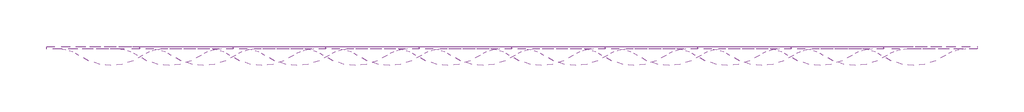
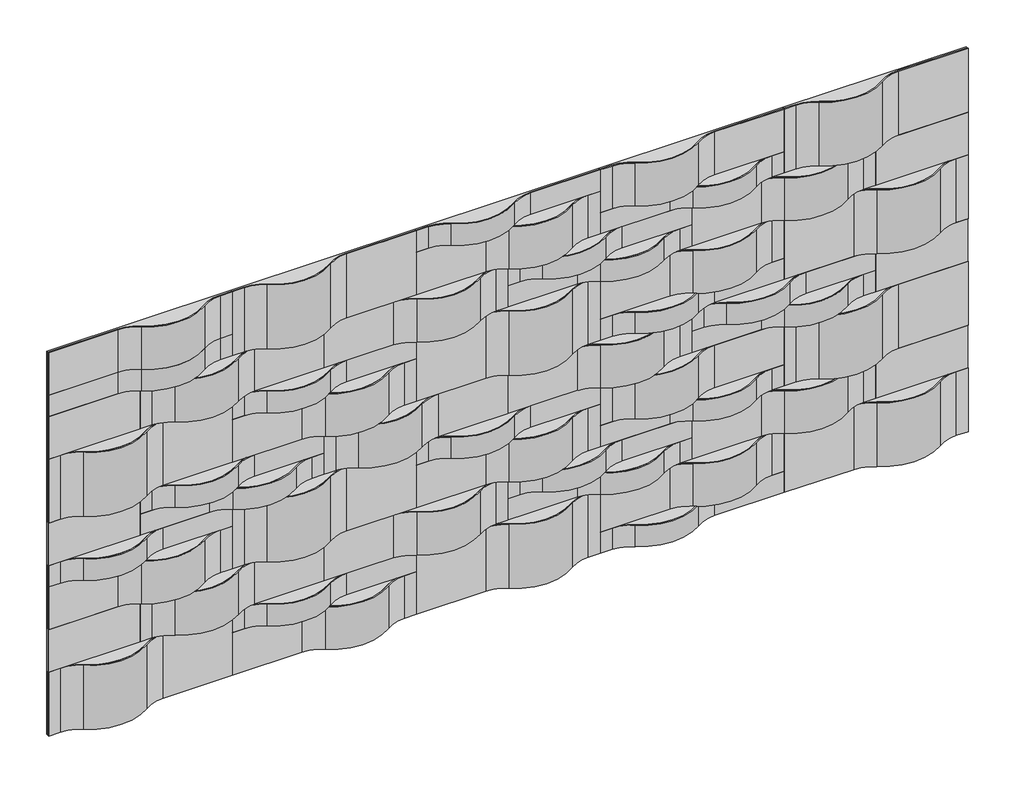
# One storey: 52 proxies.
"""IFC4 building model written with IfcOpenShell, lengths in millimetres."""

import ifcopenshell
import ifcopenshell.guid

model = None  # the IFC model being written
_history = None  # IfcOwnerHistory: only IFC2X3 demands one
_inside = {}  # id of a spatial element -> (the spatial element, [elements in it])
_under = {}  # id of a project, library or spatial element -> (it, [spatial elements below it])
_declared = {}  # id of a project -> (the project, [libraries it declares])
_typed = {}  # id of a type object -> (the type object, [elements of that type])
_made_of = {}  # id of a material, layer set ... -> (it, [elements and type objects made of it])


def new_model(schema):
    """Start an empty IFC model of exactly this schema.

    Asked for "IFC4X3", IfcOpenShell would pick the latest addendum, in which some entities
    have other attributes; the version numbers below select the first issue.
    IFC2X3 requires an IfcOwnerHistory on every rooted entity: one is made here for all.
    """
    global model, _history
    if schema == "IFC4X3":
        model = ifcopenshell.file(schema_version=(4, 3, 0, 0))
    else:
        model = ifcopenshell.file(schema=schema)
    _inside.clear()
    _under.clear()
    _declared.clear()
    _typed.clear()
    _made_of.clear()
    _history = None
    if model.schema == "IFC2X3":
        org = make("IfcOrganization", Name="unknown")
        user = make(
            "IfcPersonAndOrganization",
            ThePerson=make("IfcPerson", FamilyName="unknown"),
            TheOrganization=org,
        )
        app = make(
            "IfcApplication",
            ApplicationDeveloper=org,
            Version="unknown",
            ApplicationFullName="unknown",
            ApplicationIdentifier="unknown",
        )
        _history = make(
            "IfcOwnerHistory",
            OwningUser=user,
            OwningApplication=app,
            ChangeAction="ADDED",
            CreationDate=0,
        )
    return model


def make(cls, **values):
    """One entity of the class cls with the attributes given. An attribute that is None is left unset."""
    return model.create_entity(
        cls, **{name: value for name, value in values.items() if value is not None}
    )


def rooted(cls, **values):
    """An entity with a GlobalId (a new one), such as an element, a storey or a relation."""
    return make(cls, GlobalId=ifcopenshell.guid.new(), OwnerHistory=_history, **values)


def si_unit(unit_type, name, prefix=None):
    """IfcSIUnit, for example si_unit("LENGTHUNIT", "METRE", prefix="MILLI")."""
    return make("IfcSIUnit", UnitType=unit_type, Prefix=prefix, Name=name)


def assignment(units):
    """IfcUnitAssignment: the units of a project."""
    return None if units is None else make("IfcUnitAssignment", Units=units)


def point(xyz):
    """IfcCartesianPoint."""
    return None if xyz is None else make("IfcCartesianPoint", Coordinates=xyz)


def direction(xyz):
    """IfcDirection."""
    return None if xyz is None else make("IfcDirection", DirectionRatios=xyz)


def frame(location, z_axis=None, x_axis=None):
    """IfcAxis2Placement3D, a coordinate frame: its origin and axes. An axis left out is left unset."""
    return make(
        "IfcAxis2Placement3D",
        Location=point(location),
        Axis=direction(z_axis),
        RefDirection=direction(x_axis),
    )


def frame_2d(location, x_axis=None):
    """IfcAxis2Placement2D, a coordinate frame in the plane: its origin and x axis."""
    return make(
        "IfcAxis2Placement2D", Location=point(location), RefDirection=direction(x_axis)
    )


def origin():
    """The frame at (0, 0, 0) with its axes left unset."""
    return frame((0.0, 0.0, 0.0))


def origin_with_axes():
    """The frame at (0, 0, 0) with the z axis (0, 0, 1) and the x axis (1, 0, 0) written out."""
    return frame((0.0, 0.0, 0.0), z_axis=(0.0, 0.0, 1.0), x_axis=(1.0, 0.0, 0.0))


def place(relative_to, where):
    """IfcLocalPlacement: puts the frame where relative to a parent placement (None: the world)."""
    return make(
        "IfcLocalPlacement", PlacementRelTo=relative_to, RelativePlacement=where
    )


def context(
    kind, dimensions, precision=None, world=None, true_north=None, identifier=None
):
    """IfcGeometricRepresentationContext, for example the 3D "Model" context."""
    return make(
        "IfcGeometricRepresentationContext",
        ContextIdentifier=identifier,
        ContextType=kind,
        CoordinateSpaceDimension=dimensions,
        Precision=precision,
        WorldCoordinateSystem=world,
        TrueNorth=true_north,
    )


def project(units=None, contexts=None):
    """IfcProject with its units and contexts."""
    return rooted(
        "IfcProject",
        Name="project",
        RepresentationContexts=contexts,
        UnitsInContext=assignment(units),
    )


def spatial(cls, under=None, at=None, **own):
    """A site, building, storey or space (cls), placed at a placement, below another one or the project."""
    s = rooted(cls, ObjectPlacement=at, **own)
    if under is not None:
        _under.setdefault(under.id(), (under, []))[1].append(s)
    return s


def polyline(points):
    """IfcPolyline through the points."""
    return make("IfcPolyline", Points=[point(p) for p in points])


def circle_curve(where, radius):
    """IfcCircle in the frame where."""
    return make("IfcCircle", Position=where, Radius=radius)


def trimmed(basis, trim1, trim2, sense, master):
    """IfcTrimmedCurve: the piece of a basis curve between two trims."""
    return make(
        "IfcTrimmedCurve",
        BasisCurve=basis,
        Trim1=trim1,
        Trim2=trim2,
        SenseAgreement=sense,
        MasterRepresentation=master,
    )


def segment(curve, same_sense, transition):
    """IfcCompositeCurveSegment."""
    return make(
        "IfcCompositeCurveSegment",
        Transition=transition,
        SameSense=same_sense,
        ParentCurve=curve,
    )


def composite_curve(segments, self_intersect=None):
    """IfcCompositeCurve: segments joined end to end."""
    return make("IfcCompositeCurve", Segments=segments, SelfIntersect=self_intersect)


def outline(outer, holes=None, kind="AREA"):
    """IfcArbitraryClosedProfileDef: a profile drawn as a closed curve; with holes, ...WithVoids."""
    if holes is None:
        return make("IfcArbitraryClosedProfileDef", ProfileType=kind, OuterCurve=outer)
    return make(
        "IfcArbitraryProfileDefWithVoids",
        ProfileType=kind,
        OuterCurve=outer,
        InnerCurves=holes,
    )


def extrude(swept, where, along, depth):
    """IfcExtrudedAreaSolid: the profile swept, set in the frame where, extruded along a direction by depth."""
    return make(
        "IfcExtrudedAreaSolid",
        SweptArea=swept,
        Position=where,
        ExtrudedDirection=direction(along),
        Depth=depth,
    )


def shape(context_of_items, identifier, shape_type, items):
    """IfcShapeRepresentation: the items that make up one representation, for example the "Body"."""
    return make(
        "IfcShapeRepresentation",
        ContextOfItems=context_of_items,
        RepresentationIdentifier=identifier,
        RepresentationType=shape_type,
        Items=items,
    )


def source(mapping_origin, context_of_items, identifier, shape_type, items):
    """IfcRepresentationMap: a shape defined once, which mapped items show again and again."""
    return make(
        "IfcRepresentationMap",
        MappingOrigin=mapping_origin,
        MappedRepresentation=shape(context_of_items, identifier, shape_type, items),
    )


def transform(
    local_origin,
    x_axis=None,
    y_axis=None,
    z_axis=None,
    scale=None,
    scale2=None,
    scale3=None,
    uniform=True,
):
    """IfcCartesianTransformationOperator3D, or its non-uniform kind. x_axis, y_axis, z_axis: its Axis1, 2, 3."""
    if uniform:
        return make(
            "IfcCartesianTransformationOperator3D",
            Axis1=direction(x_axis),
            Axis2=direction(y_axis),
            LocalOrigin=point(local_origin),
            Scale=scale,
            Axis3=direction(z_axis),
        )
    return make(
        "IfcCartesianTransformationOperator3DnonUniform",
        Axis1=direction(x_axis),
        Axis2=direction(y_axis),
        LocalOrigin=point(local_origin),
        Scale=scale,
        Axis3=direction(z_axis),
        Scale2=scale2,
        Scale3=scale3,
    )


def mapped(mapping_source, mapping_target):
    """IfcMappedItem: shows the shape of a source again, moved by a transform."""
    return make(
        "IfcMappedItem", MappingSource=mapping_source, MappingTarget=mapping_target
    )


def made_of(thing, what):
    """Note that an element or type object is made of a material, layer set ...; save() writes the relation."""
    if what is not None:
        _made_of.setdefault(what.id(), (what, []))[1].append(thing)
    return thing


def element(
    cls,
    number,
    at=None,
    inside=None,
    cuts=None,
    type_object=None,
    material=None,
    context=None,
    identifier="Body",
    shape_type=None,
    held_by="IfcProductDefinitionShape",
    body=None,
    shapes=None,
    **own,
):
    """One element of the class cls, such as IfcWall. Its Tag is "e" and its number.

    at: its placement. inside: the storey or other place that contains it. cuts: it is an
    opening in that element (IfcRelVoidsElement). A single representation is given by context,
    identifier, shape_type and body (its items); several are given by shapes. held_by: the class
    of the entity that holds the representations. save() writes the other relations.
    """
    e = rooted(cls, Tag="e%d" % number, ObjectPlacement=at, **own)
    if body is not None:
        shapes = [shape(context, identifier, shape_type, body)]
    if shapes is not None:
        e.Representation = make(held_by, Representations=shapes)
    if inside is not None:
        _inside.setdefault(inside.id(), (inside, []))[1].append(e)
    if cuts is not None:
        rooted(
            "IfcRelVoidsElement", RelatingBuildingElement=cuts, RelatedOpeningElement=e
        )
    if type_object is not None:
        _typed.setdefault(type_object.id(), (type_object, []))[1].append(e)
    return made_of(e, material)


def aggregate(whole, parts):
    """IfcRelAggregates: a whole, such as a stair, and the parts it consists of."""
    return rooted("IfcRelAggregates", RelatingObject=whole, RelatedObjects=parts)


def save(model, path):
    """Write the relations noted so far, then the file.

    IfcRelAggregates (storeys below a building ...), IfcRelContainedInSpatialStructure (elements
    in a storey), IfcRelDefinesByType, IfcRelAssociatesMaterial and IfcRelDeclares: one each for
    every whole, place, type object, material and project.
    """
    for whole, parts in _under.values():
        aggregate(whole, parts)
    for where, things in _inside.values():
        rooted(
            "IfcRelContainedInSpatialStructure",
            RelatedElements=things,
            RelatingStructure=where,
        )
    for kind, things in _typed.values():
        rooted("IfcRelDefinesByType", RelatedObjects=things, RelatingType=kind)
    for what, things in _made_of.values():
        rooted("IfcRelAssociatesMaterial", RelatedObjects=things, RelatingMaterial=what)
    for by, libraries in _declared.values():
        rooted("IfcRelDeclares", RelatingContext=by, RelatedDefinitions=libraries)
    model.write(path)


def module_a_00f8a6ba(model_context):
    return source(origin(), model_context, "Body", "SweptSolid", [
        extrude(outline(composite_curve([segment(polyline([(16.3710938, -547.37), (10.0210938, -547.37), (10.0210937, -134.4593722)]), True, "CONTINUOUS"), segment(trimmed(circle_curve(frame_2d((219.5710938, -134.4593722)), 209.55), [point((10.0210937, -134.4593722))], [point((48.2227491, -13.8320648))], False, "CARTESIAN"), True, "CONTINUOUS"), segment(trimmed(circle_curve(frame_2d((-214.9662069, 171.45)), 321.8662301), [point((48.2227491, -13.8320648))], [point((48.2227491, 356.7320648))], True, "CARTESIAN"), True, "CONTINUOUS"), segment(trimmed(circle_curve(frame_2d((219.5710938, 477.3593722)), 209.55), [point((48.2227491, 356.7320648))], [point((10.0210938, 477.3593722))], False, "CARTESIAN"), True, "CONTINUOUS"), segment(polyline([(10.0210938, 477.3593722), (10.0210938, 547.37), (16.3710938, 547.37), (16.3710938, 477.3593722)]), True, "CONTINUOUS"), segment(trimmed(circle_curve(frame_2d((219.5710938, 477.3593722)), 203.2), [point((16.3710938, 477.3593722))], [point((53.4151232, 360.3874377))], True, "CARTESIAN"), True, "CONTINUOUS"), segment(trimmed(circle_curve(frame_2d((-214.9662069, 171.45)), 328.2162301), [point((53.4151232, 360.3874377))], [point((53.4151232, -17.4874377))], False, "CARTESIAN"), True, "CONTINUOUS"), segment(trimmed(circle_curve(frame_2d((219.5710938, -134.4593722)), 203.2), [point((53.4151232, -17.4874377))], [point((16.3710938, -134.4593722))], True, "CARTESIAN"), True, "CONTINUOUS"), segment(polyline([(16.3710938, -134.4593722), (16.3710938, -547.37)]), True, "CONTINUOUS")], self_intersect=False)), frame((0.0, -201.0667969, 0.0), z_axis=(0.0, 1.0, 0.0), x_axis=(0.0, 0.0, 1.0)), (0.0, 0.0, 1.0), 402.1335938),
        extrude(outline(composite_curve([segment(trimmed(circle_curve(frame_2d((-214.9662069, 171.45)), 321.8662301), [point((48.2227491, 356.7320648))], [point((48.2227491, -13.8320648))], False, "CARTESIAN"), True, "CONTINUOUS"), segment(trimmed(circle_curve(frame_2d((219.5710938, -134.4593722)), 209.55), [point((48.2227491, -13.8320648))], [point((10.0210938, -134.4593722))], True, "CARTESIAN"), True, "CONTINUOUS"), segment(polyline([(10.0210938, -134.4593722), (10.0210937, -547.37), (0.0, -547.37), (0.0, 547.37), (10.0210938, 547.37), (10.0210938, 477.3593722)]), True, "CONTINUOUS"), segment(trimmed(circle_curve(frame_2d((219.5710938, 477.3593722)), 209.55), [point((10.0210938, 477.3593722))], [point((48.2227491, 356.7320648))], True, "CARTESIAN"), True, "CONTINUOUS")], self_intersect=False)), frame((0.0, -201.0667969, 0.0), z_axis=(0.0, 1.0, 0.0), x_axis=(0.0, 0.0, 1.0)), (0.0, 0.0, 1.0), 402.1335938),
    ])


def module_b_9821c963(model_context):
    return source(origin(), model_context, "Body", "SweptSolid", [
        extrude(outline(composite_curve([segment(polyline([(16.3710938, 547.37), (16.3710938, 477.3593722)]), True, "CONTINUOUS"), segment(trimmed(circle_curve(frame_2d((219.5710938, 477.3593722)), 203.2), [point((16.3710938, 477.3593722))], [point((53.4151232, 360.3874377))], True, "CARTESIAN"), True, "CONTINUOUS"), segment(trimmed(circle_curve(frame_2d((-214.9662069, 171.45)), 328.2162301), [point((53.4151232, 360.3874377))], [point((53.4151232, -17.4874377))], False, "CARTESIAN"), True, "CONTINUOUS"), segment(trimmed(circle_curve(frame_2d((219.5710938, -134.4593722)), 203.2), [point((53.4151232, -17.4874377))], [point((16.3710938, -134.4593722))], True, "CARTESIAN"), True, "CONTINUOUS"), segment(polyline([(16.3710938, -134.4593722), (16.3710938, -547.37), (10.0210938, -547.37), (10.0210937, -134.4593722)]), True, "CONTINUOUS"), segment(trimmed(circle_curve(frame_2d((219.5710938, -134.4593722)), 209.55), [point((10.0210937, -134.4593722))], [point((48.2227491, -13.8320648))], False, "CARTESIAN"), True, "CONTINUOUS"), segment(trimmed(circle_curve(frame_2d((-214.9662069, 171.45)), 321.8662301), [point((48.2227491, -13.8320648))], [point((48.2227491, 356.7320648))], True, "CARTESIAN"), True, "CONTINUOUS"), segment(trimmed(circle_curve(frame_2d((219.5710938, 477.3593722)), 209.55), [point((48.2227491, 356.7320648))], [point((10.0210938, 477.3593722))], False, "CARTESIAN"), True, "CONTINUOUS"), segment(polyline([(10.0210938, 477.3593722), (10.0210938, 547.37), (16.3710938, 547.37)]), True, "CONTINUOUS")], self_intersect=False)), frame((0.0, -134.0996528, 0.0), z_axis=(0.0, 1.0, 0.0), x_axis=(0.0, 0.0, 1.0)), (0.0, 0.0, 1.0), 268.1993056),
        extrude(outline(composite_curve([segment(trimmed(circle_curve(frame_2d((-214.9662069, 171.45)), 321.8662301), [point((48.2227491, 356.7320648))], [point((48.2227491, -13.8320648))], False, "CARTESIAN"), True, "CONTINUOUS"), segment(trimmed(circle_curve(frame_2d((219.5710938, -134.4593722)), 209.55), [point((48.2227491, -13.8320648))], [point((10.0210938, -134.4593722))], True, "CARTESIAN"), True, "CONTINUOUS"), segment(polyline([(10.0210938, -134.4593722), (10.0210937, -547.37), (0.0, -547.37), (0.0, 547.37), (10.0210938, 547.37), (10.0210938, 477.3593722)]), True, "CONTINUOUS"), segment(trimmed(circle_curve(frame_2d((219.5710938, 477.3593722)), 209.55), [point((10.0210938, 477.3593722))], [point((48.2227491, 356.7320648))], True, "CARTESIAN"), True, "CONTINUOUS")], self_intersect=False)), frame((0.0, -134.0996528, 0.0), z_axis=(0.0, 1.0, 0.0), x_axis=(0.0, 0.0, 1.0)), (0.0, 0.0, 1.0), 268.1993056),
    ])


def module_b_d47c937a(model_context):
    return source(origin(), model_context, "Body", "SweptSolid", [
        extrude(outline(composite_curve([segment(trimmed(circle_curve(frame_2d((219.5710938, 477.3593722)), 203.2), [point((16.3710938, 477.3593722))], [point((53.4151232, 360.3874377))], True, "CARTESIAN"), True, "CONTINUOUS"), segment(trimmed(circle_curve(frame_2d((-214.9662069, 171.45)), 328.2162301), [point((53.4151232, 360.3874377))], [point((53.4151232, -17.4874377))], False, "CARTESIAN"), True, "CONTINUOUS"), segment(trimmed(circle_curve(frame_2d((219.5710938, -134.4593722)), 203.2), [point((53.4151232, -17.4874377))], [point((16.3710938, -134.4593722))], True, "CARTESIAN"), True, "CONTINUOUS"), segment(polyline([(16.3710938, -134.4593722), (16.3710938, -547.37), (10.0210938, -547.37), (10.0210937, -134.4593722)]), True, "CONTINUOUS"), segment(trimmed(circle_curve(frame_2d((219.5710938, -134.4593722)), 209.55), [point((10.0210937, -134.4593722))], [point((48.2227491, -13.8320648))], False, "CARTESIAN"), True, "CONTINUOUS"), segment(trimmed(circle_curve(frame_2d((-214.9662069, 171.45)), 321.8662301), [point((48.2227491, -13.8320648))], [point((48.2227491, 356.7320648))], True, "CARTESIAN"), True, "CONTINUOUS"), segment(trimmed(circle_curve(frame_2d((219.5710938, 477.3593722)), 209.55), [point((48.2227491, 356.7320648))], [point((10.0210938, 477.3593722))], False, "CARTESIAN"), True, "CONTINUOUS"), segment(polyline([(10.0210938, 477.3593722), (10.0210938, 547.37), (16.3710938, 547.37), (16.3710938, 477.3593722)]), True, "CONTINUOUS")], self_intersect=False)), frame((0.0, -134.0996528, 0.0), z_axis=(0.0, 1.0, 0.0), x_axis=(0.0, 0.0, 1.0)), (0.0, 0.0, 1.0), 268.1993056),
        extrude(outline(composite_curve([segment(trimmed(circle_curve(frame_2d((219.5710938, -134.4593722)), 209.55), [point((48.2227491, -13.8320648))], [point((10.0210938, -134.4593722))], True, "CARTESIAN"), True, "CONTINUOUS"), segment(polyline([(10.0210938, -134.4593722), (10.0210937, -547.37), (0.0, -547.37), (0.0, 547.37), (10.0210938, 547.37), (10.0210938, 477.3593722)]), True, "CONTINUOUS"), segment(trimmed(circle_curve(frame_2d((219.5710938, 477.3593722)), 209.55), [point((10.0210938, 477.3593722))], [point((48.2227491, 356.7320648))], True, "CARTESIAN"), True, "CONTINUOUS"), segment(trimmed(circle_curve(frame_2d((-214.9662069, 171.45)), 321.8662301), [point((48.2227491, 356.7320648))], [point((48.2227491, -13.8320648))], False, "CARTESIAN"), True, "CONTINUOUS")], self_intersect=False)), frame((0.0, -134.0996528, 0.0), z_axis=(0.0, 1.0, 0.0), x_axis=(0.0, 0.0, 1.0)), (0.0, 0.0, 1.0), 268.1993056),
    ])


def module_c_232ed236(model_context):
    return source(origin(), model_context, "Body", "SweptSolid", [
        extrude(outline(composite_curve([segment(polyline([(16.3710938, -547.37), (10.0210938, -547.37), (10.0210937, -134.4593722)]), True, "CONTINUOUS"), segment(trimmed(circle_curve(frame_2d((219.5710938, -134.4593722)), 209.55), [point((10.0210937, -134.4593722))], [point((48.2227491, -13.8320648))], False, "CARTESIAN"), True, "CONTINUOUS"), segment(trimmed(circle_curve(frame_2d((-214.9662069, 171.45)), 321.8662301), [point((48.2227491, -13.8320648))], [point((48.2227491, 356.7320648))], True, "CARTESIAN"), True, "CONTINUOUS"), segment(trimmed(circle_curve(frame_2d((219.5710938, 477.3593722)), 209.55), [point((48.2227491, 356.7320648))], [point((10.0210938, 477.3593722))], False, "CARTESIAN"), True, "CONTINUOUS"), segment(polyline([(10.0210938, 477.3593722), (10.0210938, 547.37), (16.3710938, 547.37), (16.3710938, 477.3593722)]), True, "CONTINUOUS"), segment(trimmed(circle_curve(frame_2d((219.5710938, 477.3593722)), 203.2), [point((16.3710938, 477.3593722))], [point((53.4151232, 360.3874377))], True, "CARTESIAN"), True, "CONTINUOUS"), segment(trimmed(circle_curve(frame_2d((-214.9662069, 171.45)), 328.2162301), [point((53.4151232, 360.3874377))], [point((53.4151232, -17.4874377))], False, "CARTESIAN"), True, "CONTINUOUS"), segment(trimmed(circle_curve(frame_2d((219.5710938, -134.4593722)), 203.2), [point((53.4151232, -17.4874377))], [point((16.3710938, -134.4593722))], True, "CARTESIAN"), True, "CONTINUOUS"), segment(polyline([(16.3710938, -134.4593722), (16.3710938, -547.37)]), True, "CONTINUOUS")], self_intersect=False)), frame((0.0, -67.0222656, 0.0), z_axis=(0.0, 1.0, 0.0), x_axis=(0.0, 0.0, 1.0)), (0.0, 0.0, 1.0), 134.0445313),
        extrude(outline(composite_curve([segment(trimmed(circle_curve(frame_2d((-214.9662069, 171.45)), 321.8662301), [point((48.2227491, 356.7320648))], [point((48.2227491, -13.8320648))], False, "CARTESIAN"), True, "CONTINUOUS"), segment(trimmed(circle_curve(frame_2d((219.5710938, -134.4593722)), 209.55), [point((48.2227491, -13.8320648))], [point((10.0210938, -134.4593722))], True, "CARTESIAN"), True, "CONTINUOUS"), segment(polyline([(10.0210938, -134.4593722), (10.0210937, -547.37), (0.0, -547.37), (0.0, 547.37), (10.0210938, 547.37), (10.0210938, 477.3593722)]), True, "CONTINUOUS"), segment(trimmed(circle_curve(frame_2d((219.5710938, 477.3593722)), 209.55), [point((10.0210938, 477.3593722))], [point((48.2227491, 356.7320648))], True, "CARTESIAN"), True, "CONTINUOUS")], self_intersect=False)), frame((0.0, -67.0222656, 0.0), z_axis=(0.0, 1.0, 0.0), x_axis=(0.0, 0.0, 1.0)), (0.0, 0.0, 1.0), 134.0445313),
    ])


def module_e_3b491663(model_context):
    return source(origin(), model_context, "Body", "SweptSolid", [
        extrude(outline(polyline([(547.37, -134.0996528), (2.4729323, -134.0996528), (2.4729323, 134.0996528), (547.37, 134.0996528), (547.37, -134.0996528)])), origin_with_axes(), (0.0, 0.0, 1.0), 10.0210938),
        extrude(outline(polyline([(2.4729323, 134.0996528), (547.37, 134.0996528), (547.37, -134.0996528), (2.4729323, -134.0996528), (2.4729323, 134.0996528)])), frame((0.0, 0.0, 10.0210938), z_axis=(0.0, 0.0, 1.0), x_axis=(1.0, 0.0, 0.0)), (0.0, 0.0, 1.0), 6.35),
    ])


def module_e_d9e0331b(model_context):
    return source(origin(), model_context, "Body", "SweptSolid", [
        extrude(outline(polyline([(2.4729323, -134.0996528), (-547.37, -134.0996528), (-547.37, 134.0996528), (2.4729323, 134.0996528), (2.4729323, -134.0996528)])), origin_with_axes(), (0.0, 0.0, 1.0), 10.0210938),
        extrude(outline(polyline([(-547.37, -134.0996528), (-547.37, 134.0996528), (2.4729323, 134.0996528), (2.4729323, -134.0996528), (-547.37, -134.0996528)])), frame((0.0, 0.0, 10.0210938), z_axis=(0.0, 0.0, 1.0), x_axis=(1.0, 0.0, 0.0)), (0.0, 0.0, 1.0), 6.35),
    ])


def module_e_a733a758(model_context):
    return source(origin(), model_context, "Body", "SweptSolid", [
        extrude(outline(polyline([(547.37, -134.0996528), (0.0, -134.0996528), (0.0, 134.0996528), (547.37, 134.0996528), (547.37, -134.0996528)])), origin_with_axes(), (0.0, 0.0, 1.0), 10.0210938),
        extrude(outline(polyline([(0.0, 134.0996528), (547.37, 134.0996528), (547.37, -134.0996528), (0.0, -134.0996528), (0.0, 134.0996528)])), frame((0.0, 0.0, 10.0210938), z_axis=(0.0, 0.0, 1.0), x_axis=(1.0, 0.0, 0.0)), (0.0, 0.0, 1.0), 6.35),
    ])


def module_e_903068e9(model_context):
    return source(origin(), model_context, "Body", "SweptSolid", [
        extrude(outline(polyline([(0.0, -134.0996528), (-547.37, -134.0996528), (-547.37, 134.0996528), (0.0, 134.0996528), (0.0, -134.0996528)])), origin_with_axes(), (0.0, 0.0, 1.0), 10.0210938),
        extrude(outline(polyline([(-547.37, -134.0996528), (-547.37, 134.0996528), (0.0, 134.0996528), (0.0, -134.0996528), (-547.37, -134.0996528)])), frame((0.0, 0.0, 10.0210938), z_axis=(0.0, 0.0, 1.0), x_axis=(1.0, 0.0, 0.0)), (0.0, 0.0, 1.0), 6.35),
    ])


model = new_model("IFC4")

# Units and contexts
model_context = context("Model", 3, world=origin())
ifc_project = project(units=[si_unit("LENGTHUNIT", "METRE", prefix="MILLI")], contexts=[model_context])

# Site, building, storey
site = spatial("IfcSite", under=ifc_project)
building = spatial("IfcBuilding", under=site)
storey = spatial("IfcBuildingStorey", under=building, Name="Nível 1", Elevation=0.0)

# Proxies
placement = place(None, origin())
module_a_shape = module_a_00f8a6ba(model_context)
element("IfcBuildingElementProxy", 1, Name="Spinneybeck_Wave : Module A", ObjectType="Spinneybeck_Wave : Module A", at=placement, inside=storey, context=model_context, shape_type="MappedRepresentation", body=[
    mapped(module_a_shape, transform((-10267.0250363, 552.5357437, 3598.9166667), x_axis=(-1.0, 0.0, 0.0), y_axis=(0.0, 0.0, -1.0), z_axis=(0.0, -1.0, 0.0))),
])
element("IfcBuildingElementProxy", 2, Name="Spinneybeck_Wave : Module A", ObjectType="Spinneybeck_Wave : Module A", at=placement, inside=storey, context=model_context, shape_type="MappedRepresentation", body=[
    mapped(module_a_shape, transform((-6982.8050363, 552.5357437, 3598.9166667), x_axis=(-1.0, 0.0, 0.0), y_axis=(0.0, 0.0, -1.0), z_axis=(0.0, -1.0, 0.0))),
])
element("IfcBuildingElementProxy", 3, Name="Spinneybeck_Wave : Module A", ObjectType="Spinneybeck_Wave : Module A", at=placement, inside=storey, context=model_context, shape_type="MappedRepresentation", body=[
    mapped(module_a_shape, transform((-11361.7650363, 552.5357437, 2928.5506944), x_axis=(-1.0, 0.0, 0.0), y_axis=(0.0, 0.0, -1.0), z_axis=(0.0, -1.0, 0.0))),
])
element("IfcBuildingElementProxy", 4, Name="Spinneybeck_Wave : Module A", ObjectType="Spinneybeck_Wave : Module A", at=placement, inside=storey, context=model_context, shape_type="MappedRepresentation", body=[
    mapped(module_a_shape, transform((-10267.0250363, 552.5357437, 2258.2729167), x_axis=(-1.0, 0.0, 0.0), y_axis=(0.0, 0.0, -1.0), z_axis=(0.0, -1.0, 0.0))),
])
element("IfcBuildingElementProxy", 5, Name="Spinneybeck_Wave : Module A", ObjectType="Spinneybeck_Wave : Module A", at=placement, inside=storey, context=model_context, shape_type="MappedRepresentation", body=[
    mapped(module_a_shape, transform((-6982.8050363, 552.5357437, 2258.2729167), x_axis=(-1.0, 0.0, 0.0), y_axis=(0.0, 0.0, -1.0), z_axis=(0.0, -1.0, 0.0))),
])
element("IfcBuildingElementProxy", 6, Name="Spinneybeck_Wave : Module A", ObjectType="Spinneybeck_Wave : Module A", at=placement, inside=storey, context=model_context, shape_type="MappedRepresentation", body=[
    mapped(module_a_shape, transform((-11361.7650363, 552.5357437, 1587.81875), x_axis=(-1.0, 0.0, 0.0), y_axis=(0.0, 0.0, -1.0), z_axis=(0.0, -1.0, 0.0))),
])
element("IfcBuildingElementProxy", 7, Name="Spinneybeck_Wave : Module A", ObjectType="Spinneybeck_Wave : Module A", at=placement, inside=storey, context=model_context, shape_type="MappedRepresentation", body=[
    mapped(module_a_shape, transform((-9172.2850363, 552.5357437, 2928.5506944), x_axis=(1.0, 0.0, 0.0), y_axis=(0.0, 0.0, 1.0), z_axis=(0.0, -1.0, 0.0))),
])
element("IfcBuildingElementProxy", 8, Name="Spinneybeck_Wave : Module A", ObjectType="Spinneybeck_Wave : Module A", at=placement, inside=storey, context=model_context, shape_type="MappedRepresentation", body=[
    mapped(module_a_shape, transform((-6982.8050363, 552.5357437, 2928.5506944), x_axis=(1.0, 0.0, 0.0), y_axis=(0.0, 0.0, 1.0), z_axis=(0.0, -1.0, 0.0))),
])
element("IfcBuildingElementProxy", 9, Name="Spinneybeck_Wave : Module A", ObjectType="Spinneybeck_Wave : Module A", at=placement, inside=storey, context=model_context, shape_type="MappedRepresentation", body=[
    mapped(module_a_shape, transform((-6982.8050363, 552.5357437, 1587.81875), x_axis=(1.0, 0.0, 0.0), y_axis=(0.0, 0.0, 1.0), z_axis=(0.0, -1.0, 0.0))),
])
element("IfcBuildingElementProxy", 10, Name="Spinneybeck_Wave : Module A", ObjectType="Spinneybeck_Wave : Module A", at=placement, inside=storey, context=model_context, shape_type="MappedRepresentation", body=[
    mapped(module_a_shape, transform((-9172.2850363, 552.5357437, 1587.81875), x_axis=(1.0, 0.0, 0.0), y_axis=(0.0, 0.0, 1.0), z_axis=(0.0, -1.0, 0.0))),
])
module_b_shape = module_b_9821c963(model_context)
element("IfcBuildingElementProxy", 11, Name="Spinneybeck_Wave : Module B", ObjectType="Spinneybeck_Wave : Module B", at=placement, inside=storey, context=model_context, shape_type="MappedRepresentation", body=[
    mapped(module_b_shape, transform((-11361.7650363, 552.5357437, 3665.9003472), x_axis=(1.0, 0.0, 0.0), y_axis=(0.0, 0.0, 1.0), z_axis=(0.0, -1.0, 0.0))),
])
element("IfcBuildingElementProxy", 12, Name="Spinneybeck_Wave : Module B", ObjectType="Spinneybeck_Wave : Module B", at=placement, inside=storey, context=model_context, shape_type="MappedRepresentation", body=[
    mapped(module_b_shape, transform((-9172.2850363, 552.5357437, 3531.8447917), x_axis=(1.0, 0.0, 0.0), y_axis=(0.0, 0.0, 1.0), z_axis=(0.0, -1.0, 0.0))),
])
element("IfcBuildingElementProxy", 13, Name="Spinneybeck_Wave : Module B", ObjectType="Spinneybeck_Wave : Module B", at=placement, inside=storey, context=model_context, shape_type="MappedRepresentation", body=[
    mapped(module_b_shape, transform((-9722.1279686, 552.5357437, 3263.7336806), x_axis=(1.0, 0.0, 0.0), y_axis=(0.0, 0.0, 1.0), z_axis=(0.0, -1.0, 0.0))),
])
element("IfcBuildingElementProxy", 14, Name="Spinneybeck_Wave : Module B", ObjectType="Spinneybeck_Wave : Module B", at=placement, inside=storey, context=model_context, shape_type="MappedRepresentation", body=[
    mapped(module_b_shape, transform((-7532.6479686, 552.5357437, 3263.7336806), x_axis=(1.0, 0.0, 0.0), y_axis=(0.0, 0.0, 1.0), z_axis=(0.0, -1.0, 0.0))),
])
element("IfcBuildingElementProxy", 15, Name="Spinneybeck_Wave : Module B", ObjectType="Spinneybeck_Wave : Module B", at=placement, inside=storey, context=model_context, shape_type="MappedRepresentation", body=[
    mapped(module_b_shape, transform((-10267.0250363, 552.5357437, 2861.5670139), x_axis=(1.0, 0.0, 0.0), y_axis=(0.0, 0.0, 1.0), z_axis=(0.0, -1.0, 0.0))),
])
element("IfcBuildingElementProxy", 16, Name="Spinneybeck_Wave : Module B", ObjectType="Spinneybeck_Wave : Module B", at=placement, inside=storey, context=model_context, shape_type="MappedRepresentation", body=[
    mapped(module_b_shape, transform((-8077.5450363, 552.5357437, 2995.534375), x_axis=(1.0, 0.0, 0.0), y_axis=(0.0, 0.0, 1.0), z_axis=(0.0, -1.0, 0.0))),
])
element("IfcBuildingElementProxy", 17, Name="Spinneybeck_Wave : Module B", ObjectType="Spinneybeck_Wave : Module B", at=placement, inside=storey, context=model_context, shape_type="MappedRepresentation", body=[
    mapped(module_b_shape, transform((-8627.3879686, 552.5357437, 2593.3677083), x_axis=(1.0, 0.0, 0.0), y_axis=(0.0, 0.0, 1.0), z_axis=(0.0, -1.0, 0.0))),
])
element("IfcBuildingElementProxy", 18, Name="Spinneybeck_Wave : Module B", ObjectType="Spinneybeck_Wave : Module B", at=placement, inside=storey, context=model_context, shape_type="MappedRepresentation", body=[
    mapped(module_b_shape, transform((-11361.7650363, 552.5357437, 2191.2010417), x_axis=(1.0, 0.0, 0.0), y_axis=(0.0, 0.0, 1.0), z_axis=(0.0, -1.0, 0.0))),
])
element("IfcBuildingElementProxy", 19, Name="Spinneybeck_Wave : Module B", ObjectType="Spinneybeck_Wave : Module B", at=placement, inside=storey, context=model_context, shape_type="MappedRepresentation", body=[
    mapped(module_b_shape, transform((-9172.2850363, 552.5357437, 2191.2010417), x_axis=(1.0, 0.0, 0.0), y_axis=(0.0, 0.0, 1.0), z_axis=(0.0, -1.0, 0.0))),
])
element("IfcBuildingElementProxy", 20, Name="Spinneybeck_Wave : Module B", ObjectType="Spinneybeck_Wave : Module B", at=placement, inside=storey, context=model_context, shape_type="MappedRepresentation", body=[
    mapped(module_b_shape, transform((-9722.1279686, 552.5357437, 1923.0017361), x_axis=(1.0, 0.0, 0.0), y_axis=(0.0, 0.0, 1.0), z_axis=(0.0, -1.0, 0.0))),
])
element("IfcBuildingElementProxy", 21, Name="Spinneybeck_Wave : Module B", ObjectType="Spinneybeck_Wave : Module B", at=placement, inside=storey, context=model_context, shape_type="MappedRepresentation", body=[
    mapped(module_b_shape, transform((-7532.6479686, 552.5357437, 1923.0017361), x_axis=(1.0, 0.0, 0.0), y_axis=(0.0, 0.0, 1.0), z_axis=(0.0, -1.0, 0.0))),
])
element("IfcBuildingElementProxy", 22, Name="Spinneybeck_Wave : Module B", ObjectType="Spinneybeck_Wave : Module B", at=placement, inside=storey, context=model_context, shape_type="MappedRepresentation", body=[
    mapped(module_b_shape, transform((-10267.0250363, 552.5357437, 1520.8350694), x_axis=(1.0, 0.0, 0.0), y_axis=(0.0, 0.0, 1.0), z_axis=(0.0, -1.0, 0.0))),
])
element("IfcBuildingElementProxy", 23, Name="Spinneybeck_Wave : Module B", ObjectType="Spinneybeck_Wave : Module B", at=placement, inside=storey, context=model_context, shape_type="MappedRepresentation", body=[
    mapped(module_b_shape, transform((-8077.5450363, 552.5357437, 1654.8024306), x_axis=(1.0, 0.0, 0.0), y_axis=(0.0, 0.0, 1.0), z_axis=(0.0, -1.0, 0.0))),
])
module_b_2_shape = module_b_d47c937a(model_context)
element("IfcBuildingElementProxy", 24, Name="Spinneybeck_Wave : Module B", ObjectType="Spinneybeck_Wave : Module B", at=placement, inside=storey, context=model_context, shape_type="MappedRepresentation", body=[
    mapped(module_b_2_shape, transform((-8077.5450363, 552.5357437, 3665.9003472), x_axis=(-1.0, 0.0, 0.0), y_axis=(0.0, 0.0, -1.0), z_axis=(0.0, -1.0, 0.0))),
])
element("IfcBuildingElementProxy", 25, Name="Spinneybeck_Wave : Module B", ObjectType="Spinneybeck_Wave : Module B", at=placement, inside=storey, context=model_context, shape_type="MappedRepresentation", body=[
    mapped(module_b_2_shape, transform((-10816.8679686, 552.5357437, 3263.7336806), x_axis=(-1.0, 0.0, 0.0), y_axis=(0.0, 0.0, -1.0), z_axis=(0.0, -1.0, 0.0))),
])
element("IfcBuildingElementProxy", 26, Name="Spinneybeck_Wave : Module B", ObjectType="Spinneybeck_Wave : Module B", at=placement, inside=storey, context=model_context, shape_type="MappedRepresentation", body=[
    mapped(module_b_2_shape, transform((-9722.1279686, 552.5357437, 2593.3677083), x_axis=(-1.0, 0.0, 0.0), y_axis=(0.0, 0.0, -1.0), z_axis=(0.0, -1.0, 0.0))),
])
element("IfcBuildingElementProxy", 27, Name="Spinneybeck_Wave : Module B", ObjectType="Spinneybeck_Wave : Module B", at=placement, inside=storey, context=model_context, shape_type="MappedRepresentation", body=[
    mapped(module_b_2_shape, transform((-8077.5450363, 552.5357437, 2325.2565972), x_axis=(-1.0, 0.0, 0.0), y_axis=(0.0, 0.0, -1.0), z_axis=(0.0, -1.0, 0.0))),
])
element("IfcBuildingElementProxy", 28, Name="Spinneybeck_Wave : Module B", ObjectType="Spinneybeck_Wave : Module B", at=placement, inside=storey, context=model_context, shape_type="MappedRepresentation", body=[
    mapped(module_b_2_shape, transform((-10816.8679686, 552.5357437, 1923.0017361), x_axis=(-1.0, 0.0, 0.0), y_axis=(0.0, 0.0, -1.0), z_axis=(0.0, -1.0, 0.0))),
])
module_c_shape = module_c_232ed236(model_context)
element("IfcBuildingElementProxy", 29, Name="Spinneybeck_Wave : Module C", ObjectType="Spinneybeck_Wave : Module C", at=placement, inside=storey, context=model_context, shape_type="MappedRepresentation", body=[
    mapped(module_c_shape, transform((-9172.2850363, 552.5357437, 3732.9722222), x_axis=(-1.0, 0.0, 0.0), y_axis=(0.0, 0.0, -1.0), z_axis=(0.0, -1.0, 0.0))),
])
element("IfcBuildingElementProxy", 30, Name="Spinneybeck_Wave : Module C", ObjectType="Spinneybeck_Wave : Module C", at=placement, inside=storey, context=model_context, shape_type="MappedRepresentation", body=[
    mapped(module_c_shape, transform((-8627.3879686, 552.5357437, 3330.8055556), x_axis=(-1.0, 0.0, 0.0), y_axis=(0.0, 0.0, -1.0), z_axis=(0.0, -1.0, 0.0))),
])
element("IfcBuildingElementProxy", 31, Name="Spinneybeck_Wave : Module C", ObjectType="Spinneybeck_Wave : Module C", at=placement, inside=storey, context=model_context, shape_type="MappedRepresentation", body=[
    mapped(module_c_shape, transform((-10267.0250363, 552.5357437, 3062.60625), x_axis=(-1.0, 0.0, 0.0), y_axis=(0.0, 0.0, -1.0), z_axis=(0.0, -1.0, 0.0))),
])
element("IfcBuildingElementProxy", 32, Name="Spinneybeck_Wave : Module C", ObjectType="Spinneybeck_Wave : Module C", at=placement, inside=storey, context=model_context, shape_type="MappedRepresentation", body=[
    mapped(module_c_shape, transform((-8077.5450363, 552.5357437, 2794.4069444), x_axis=(-1.0, 0.0, 0.0), y_axis=(0.0, 0.0, -1.0), z_axis=(0.0, -1.0, 0.0))),
])
element("IfcBuildingElementProxy", 33, Name="Spinneybeck_Wave : Module C", ObjectType="Spinneybeck_Wave : Module C", at=placement, inside=storey, context=model_context, shape_type="MappedRepresentation", body=[
    mapped(module_c_shape, transform((-10816.8679686, 552.5357437, 2660.4395833), x_axis=(-1.0, 0.0, 0.0), y_axis=(0.0, 0.0, -1.0), z_axis=(0.0, -1.0, 0.0))),
])
element("IfcBuildingElementProxy", 34, Name="Spinneybeck_Wave : Module C", ObjectType="Spinneybeck_Wave : Module C", at=placement, inside=storey, context=model_context, shape_type="MappedRepresentation", body=[
    mapped(module_c_shape, transform((-7532.6479686, 552.5357437, 2660.4395833), x_axis=(-1.0, 0.0, 0.0), y_axis=(0.0, 0.0, -1.0), z_axis=(0.0, -1.0, 0.0))),
])
element("IfcBuildingElementProxy", 35, Name="Spinneybeck_Wave : Module C", ObjectType="Spinneybeck_Wave : Module C", at=placement, inside=storey, context=model_context, shape_type="MappedRepresentation", body=[
    mapped(module_c_shape, transform((-11361.7650363, 552.5357437, 2392.3284722), x_axis=(-1.0, 0.0, 0.0), y_axis=(0.0, 0.0, -1.0), z_axis=(0.0, -1.0, 0.0))),
])
element("IfcBuildingElementProxy", 36, Name="Spinneybeck_Wave : Module C", ObjectType="Spinneybeck_Wave : Module C", at=placement, inside=storey, context=model_context, shape_type="MappedRepresentation", body=[
    mapped(module_c_shape, transform((-9172.2850363, 552.5357437, 2392.3284722), x_axis=(-1.0, 0.0, 0.0), y_axis=(0.0, 0.0, -1.0), z_axis=(0.0, -1.0, 0.0))),
])
element("IfcBuildingElementProxy", 37, Name="Spinneybeck_Wave : Module C", ObjectType="Spinneybeck_Wave : Module C", at=placement, inside=storey, context=model_context, shape_type="MappedRepresentation", body=[
    mapped(module_c_shape, transform((-8627.3879686, 552.5357437, 1990.0736111), x_axis=(-1.0, 0.0, 0.0), y_axis=(0.0, 0.0, -1.0), z_axis=(0.0, -1.0, 0.0))),
])
element("IfcBuildingElementProxy", 38, Name="Spinneybeck_Wave : Module C", ObjectType="Spinneybeck_Wave : Module C", at=placement, inside=storey, context=model_context, shape_type="MappedRepresentation", body=[
    mapped(module_c_shape, transform((-10267.0250363, 552.5357437, 1721.8743056), x_axis=(-1.0, 0.0, 0.0), y_axis=(0.0, 0.0, -1.0), z_axis=(0.0, -1.0, 0.0))),
])
element("IfcBuildingElementProxy", 39, Name="Spinneybeck_Wave : Module C", ObjectType="Spinneybeck_Wave : Module C", at=placement, inside=storey, context=model_context, shape_type="MappedRepresentation", body=[
    mapped(module_c_shape, transform((-8077.5450363, 552.5357437, 1453.675), x_axis=(-1.0, 0.0, 0.0), y_axis=(0.0, 0.0, -1.0), z_axis=(0.0, -1.0, 0.0))),
])
element("IfcBuildingElementProxy", 40, Name="Spinneybeck_Wave : Module C", ObjectType="Spinneybeck_Wave : Module C", at=placement, inside=storey, context=model_context, shape_type="MappedRepresentation", body=[
    mapped(module_c_shape, transform((-8077.5450363, 552.5357437, 3464.7729167), x_axis=(1.0, 0.0, 0.0), y_axis=(0.0, 0.0, 1.0), z_axis=(0.0, -1.0, 0.0))),
])
element("IfcBuildingElementProxy", 41, Name="Spinneybeck_Wave : Module C", ObjectType="Spinneybeck_Wave : Module C", at=placement, inside=storey, context=model_context, shape_type="MappedRepresentation", body=[
    mapped(module_c_shape, transform((-11361.7650363, 552.5357437, 3464.7729167), x_axis=(1.0, 0.0, 0.0), y_axis=(0.0, 0.0, 1.0), z_axis=(0.0, -1.0, 0.0))),
])
element("IfcBuildingElementProxy", 42, Name="Spinneybeck_Wave : Module C", ObjectType="Spinneybeck_Wave : Module C", at=placement, inside=storey, context=model_context, shape_type="MappedRepresentation", body=[
    mapped(module_c_shape, transform((-8627.3879686, 552.5357437, 3196.75), x_axis=(1.0, 0.0, 0.0), y_axis=(0.0, 0.0, 1.0), z_axis=(0.0, -1.0, 0.0))),
])
element("IfcBuildingElementProxy", 43, Name="Spinneybeck_Wave : Module C", ObjectType="Spinneybeck_Wave : Module C", at=placement, inside=storey, context=model_context, shape_type="MappedRepresentation", body=[
    mapped(module_c_shape, transform((-10816.8679686, 552.5357437, 2526.3840278), x_axis=(1.0, 0.0, 0.0), y_axis=(0.0, 0.0, 1.0), z_axis=(0.0, -1.0, 0.0))),
])
element("IfcBuildingElementProxy", 44, Name="Spinneybeck_Wave : Module C", ObjectType="Spinneybeck_Wave : Module C", at=placement, inside=storey, context=model_context, shape_type="MappedRepresentation", body=[
    mapped(module_c_shape, transform((-7532.6479686, 552.5357437, 2526.3840278), x_axis=(1.0, 0.0, 0.0), y_axis=(0.0, 0.0, 1.0), z_axis=(0.0, -1.0, 0.0))),
])
element("IfcBuildingElementProxy", 45, Name="Spinneybeck_Wave : Module C", ObjectType="Spinneybeck_Wave : Module C", at=placement, inside=storey, context=model_context, shape_type="MappedRepresentation", body=[
    mapped(module_c_shape, transform((-8077.5450363, 552.5357437, 2124.1291667), x_axis=(1.0, 0.0, 0.0), y_axis=(0.0, 0.0, 1.0), z_axis=(0.0, -1.0, 0.0))),
])
element("IfcBuildingElementProxy", 46, Name="Spinneybeck_Wave : Module C", ObjectType="Spinneybeck_Wave : Module C", at=placement, inside=storey, context=model_context, shape_type="MappedRepresentation", body=[
    mapped(module_c_shape, transform((-8627.3879686, 552.5357437, 1856.0180556), x_axis=(1.0, 0.0, 0.0), y_axis=(0.0, 0.0, 1.0), z_axis=(0.0, -1.0, 0.0))),
])
module_e_shape = module_e_3b491663(model_context)
element("IfcBuildingElementProxy", 47, Name="Spinneybeck_Wave : Module E", ObjectType="Spinneybeck_Wave : Module E", at=placement, inside=storey, context=model_context, shape_type="MappedRepresentation", body=[
    mapped(module_e_shape, transform((-11911.6079686, 552.5357437, 3263.7336806), x_axis=(1.0, 0.0, 0.0), y_axis=(0.0, 0.0, 1.0), z_axis=(0.0, -1.0, 0.0))),
])
module_e_2_shape = module_e_d9e0331b(model_context)
element("IfcBuildingElementProxy", 48, Name="Spinneybeck_Wave : Module E", ObjectType="Spinneybeck_Wave : Module E", at=placement, inside=storey, context=model_context, shape_type="MappedRepresentation", body=[
    mapped(module_e_2_shape, transform((-6437.9079686, 552.5357437, 3263.7336806), x_axis=(1.0, 0.0, 0.0), y_axis=(0.0, 0.0, 1.0), z_axis=(0.0, -1.0, 0.0))),
])
module_e_3_shape = module_e_a733a758(model_context)
element("IfcBuildingElementProxy", 49, Name="Spinneybeck_Wave : Module E", ObjectType="Spinneybeck_Wave : Module E", at=placement, inside=storey, context=model_context, shape_type="MappedRepresentation", body=[
    mapped(module_e_3_shape, transform((-11911.6079686, 552.5357437, 2593.3677083), x_axis=(1.0, 0.0, 0.0), y_axis=(0.0, 0.0, 1.0), z_axis=(0.0, -1.0, 0.0))),
])
element("IfcBuildingElementProxy", 50, Name="Spinneybeck_Wave : Module E", ObjectType="Spinneybeck_Wave : Module E", at=placement, inside=storey, context=model_context, shape_type="MappedRepresentation", body=[
    mapped(module_e_3_shape, transform((-11911.6079686, 552.5357437, 1923.0017361), x_axis=(1.0, 0.0, 0.0), y_axis=(0.0, 0.0, 1.0), z_axis=(0.0, -1.0, 0.0))),
])
module_e_4_shape = module_e_903068e9(model_context)
element("IfcBuildingElementProxy", 51, Name="Spinneybeck_Wave : Module E", ObjectType="Spinneybeck_Wave : Module E", at=placement, inside=storey, context=model_context, shape_type="MappedRepresentation", body=[
    mapped(module_e_4_shape, transform((-6437.9079686, 552.5357437, 2593.3677083), x_axis=(1.0, 0.0, 0.0), y_axis=(0.0, 0.0, 1.0), z_axis=(0.0, -1.0, 0.0))),
])
element("IfcBuildingElementProxy", 52, Name="Spinneybeck_Wave : Module E", ObjectType="Spinneybeck_Wave : Module E", at=placement, inside=storey, context=model_context, shape_type="MappedRepresentation", body=[
    mapped(module_e_4_shape, transform((-6437.9079686, 552.5357437, 1923.0017361), x_axis=(1.0, 0.0, 0.0), y_axis=(0.0, 0.0, 1.0), z_axis=(0.0, -1.0, 0.0))),
])

save(model, "model.ifc")
